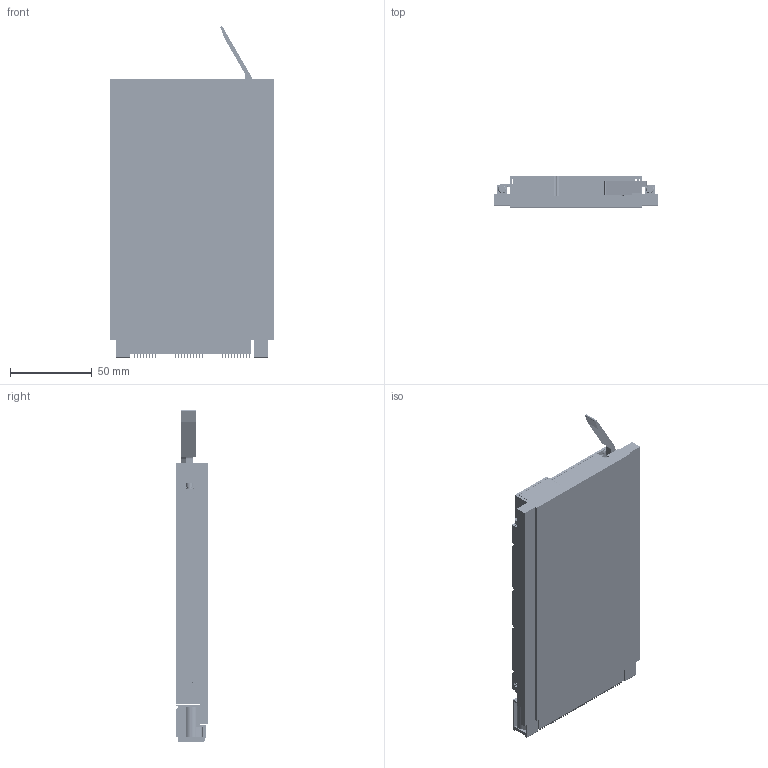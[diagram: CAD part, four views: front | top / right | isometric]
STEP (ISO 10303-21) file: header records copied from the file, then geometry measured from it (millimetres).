
FILE_DESCRIPTION (( 'STEP AP203' ), '1' );
FILE_NAME ('3U-VPX48.2-PS-265-82880 OPEN.step', '2018-06-15T20:58:37', ( '' ), ( '' ), 'SwSTEP 2.0', 'SolidWorks 2014', '' );
FILE_SCHEMA (( 'CONFIG_CONTROL_DESIGN' ));
Products named in the file (1): 3U-VPX48.2-PS-265-82880 OPEN
Bounding box: 100 x 19.27 x 203.44 mm (x, y, z)
Volume: 255779.4 mm3; surface area: 219054.9 mm2
Topology: 300 solids, 300 shells, 21624 faces, 60750 edges, 39391 vertices
Faces by surface type: plane 17806, cylinder 2659, bspline 1000, cone 158, torus 1
Entity records: 738561 total; most frequent: CARTESIAN_POINT 189789, ORIENTED_EDGE 117844, DIRECTION 104580, EDGE_CURVE 58922, LINE 50956, VECTOR 50956, VERTEX_POINT 39391, AXIS2_PLACEMENT_3D 26812
